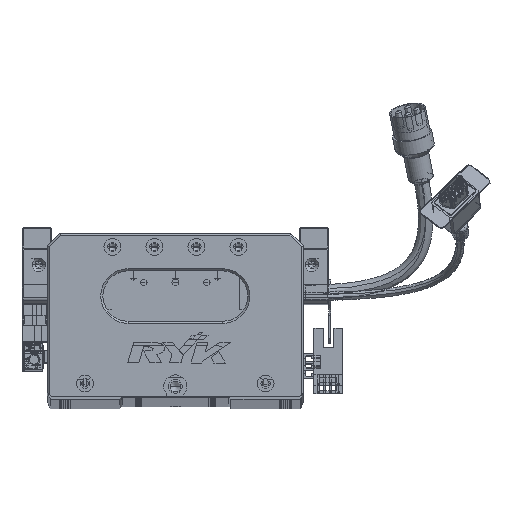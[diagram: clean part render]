
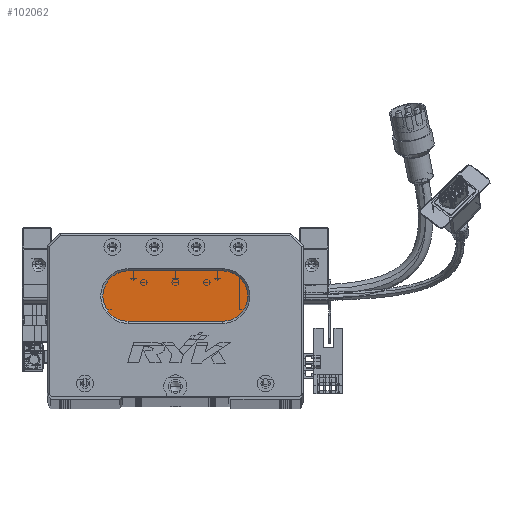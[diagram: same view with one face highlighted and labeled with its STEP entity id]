
A CAD part, top view. The second image highlights one B-rep face of the part: STEP entity #102062.
In plain terms, the highlighted planar face has unit normal (0, 0, 1) as drawn and (0, 0, -1) by its records, which use the part's own axes.
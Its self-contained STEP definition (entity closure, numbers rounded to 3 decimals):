
#147 = CARTESIAN_POINT ( 'NONE',  ( 38.5, 36., 13. ) ) ;
#1670 = VECTOR ( 'NONE', #67957, 1000. ) ;
#2425 = AXIS2_PLACEMENT_3D ( 'NONE', #104045, #66406, #9580 ) ;
#9251 = DIRECTION ( 'NONE',  ( -1., 0., 0. ) ) ;
#9580 = DIRECTION ( 'NONE',  ( -1., 0., 0. ) ) ;
#12243 = FACE_OUTER_BOUND ( 'NONE', #54521, .T. ) ;
#13139 = DIRECTION ( 'NONE',  ( -1., 0., 0. ) ) ;
#14076 = CIRCLE ( 'NONE', #22344, 12. ) ;
#19718 = CIRCLE ( 'NONE', #24842, 12. ) ;
#22344 = AXIS2_PLACEMENT_3D ( 'NONE', #85885, #84264, #9251 ) ;
#22375 = DIRECTION ( 'NONE',  ( -1., 0., 0. ) ) ;
#23778 = VERTEX_POINT ( 'NONE', #38687 ) ;
#24842 = AXIS2_PLACEMENT_3D ( 'NONE', #41313, #60285, #22375 ) ;
#35606 = VERTEX_POINT ( 'NONE', #147 ) ;
#38687 = CARTESIAN_POINT ( 'NONE',  ( 83.5, 60., 13. ) ) ;
#39392 = CARTESIAN_POINT ( 'NONE',  ( 38.5, 60., 13. ) ) ;
#41313 = CARTESIAN_POINT ( 'NONE',  ( 83.5, 48., 13. ) ) ;
#42221 = VERTEX_POINT ( 'NONE', #39392 ) ;
#47494 = CARTESIAN_POINT ( 'NONE',  ( 26.5, 48., 13. ) ) ;
#48059 = VERTEX_POINT ( 'NONE', #80893 ) ;
#54521 = EDGE_LOOP ( 'NONE', ( #98052, #73121, #75975, #78810, #94452 ) ) ;
#57887 = EDGE_CURVE ( 'NONE', #23778, #48059, #19718, .T. ) ;
#58448 = EDGE_CURVE ( 'NONE', #42221, #23778, #111227, .T. ) ;
#58505 = DIRECTION ( 'NONE',  ( 1., 0., 0. ) ) ;
#60285 = DIRECTION ( 'NONE',  ( 0., 0., -1. ) ) ;
#61991 = CIRCLE ( 'NONE', #111970, 12. ) ;
#66406 = DIRECTION ( 'NONE',  ( 0., 0., -1. ) ) ;
#67497 = VERTEX_POINT ( 'NONE', #47494 ) ;
#67957 = DIRECTION ( 'NONE',  ( -1., 0., 0. ) ) ;
#69591 = CARTESIAN_POINT ( 'NONE',  ( 38.5, 48., 13. ) ) ;
#71234 = VECTOR ( 'NONE', #58505, 1000. ) ;
#72362 = LINE ( 'NONE', #78239, #1670 ) ;
#73121 = ORIENTED_EDGE ( 'NONE', *, *, #87991, .T. ) ;
#75975 = ORIENTED_EDGE ( 'NONE', *, *, #83103, .T. ) ;
#78239 = CARTESIAN_POINT ( 'NONE',  ( 83.5, 36., 13. ) ) ;
#78673 = DIRECTION ( 'NONE',  ( 0., 0., -1. ) ) ;
#78810 = ORIENTED_EDGE ( 'NONE', *, *, #78846, .T. ) ;
#78846 = EDGE_CURVE ( 'NONE', #67497, #42221, #14076, .T. ) ;
#80893 = CARTESIAN_POINT ( 'NONE',  ( 83.5, 36., 13. ) ) ;
#83103 = EDGE_CURVE ( 'NONE', #35606, #67497, #61991, .T. ) ;
#84264 = DIRECTION ( 'NONE',  ( 0., 0., -1. ) ) ;
#85885 = CARTESIAN_POINT ( 'NONE',  ( 38.5, 48., 13. ) ) ;
#87991 = EDGE_CURVE ( 'NONE', #48059, #35606, #72362, .T. ) ;
#94452 = ORIENTED_EDGE ( 'NONE', *, *, #58448, .T. ) ;
#98052 = ORIENTED_EDGE ( 'NONE', *, *, #57887, .T. ) ;
#102062 = ADVANCED_FACE ( 'NONE', ( #12243 ), #103226, .T. ) ;
#103226 = PLANE ( 'NONE',  #2425 ) ;
#104045 = CARTESIAN_POINT ( 'NONE',  ( 83.5, 48., 13. ) ) ;
#111227 = LINE ( 'NONE', #115055, #71234 ) ;
#111970 = AXIS2_PLACEMENT_3D ( 'NONE', #69591, #78673, #13139 ) ;
#115055 = CARTESIAN_POINT ( 'NONE',  ( 83.5, 60., 13. ) ) ;
